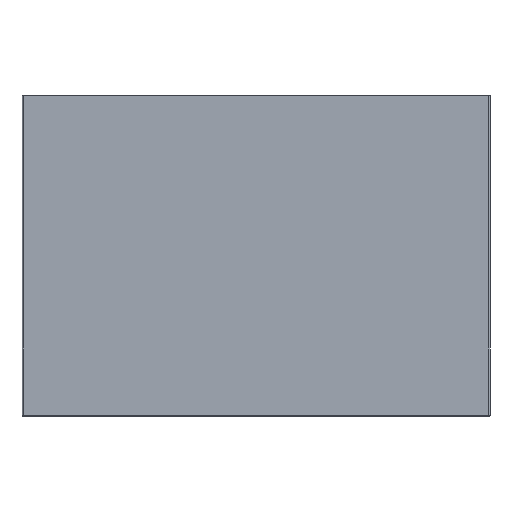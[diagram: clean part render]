
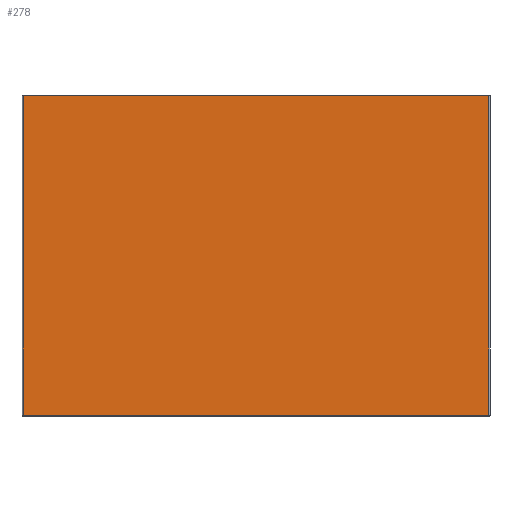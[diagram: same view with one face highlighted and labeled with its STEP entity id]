
A CAD part, front view. The second image highlights one B-rep face of the part: STEP entity #278.
In plain terms, the highlighted planar face has unit normal (0, -1, 0).
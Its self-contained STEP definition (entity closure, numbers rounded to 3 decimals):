
#258=AXIS2_PLACEMENT_3D('Plane Axis2P3D',#255,#256,#257) ;
#41=CARTESIAN_POINT('Vertex',(-698.,-200.,480.)) ;
#46=CARTESIAN_POINT('Line Origine',(-350.,-200.,480.)) ;
#50=CARTESIAN_POINT('Vertex',(-2.,-200.,480.)) ;
#212=CARTESIAN_POINT('Line Origine',(-2.,-200.,240.)) ;
#216=CARTESIAN_POINT('Vertex',(-2.,-200.,2.)) ;
#255=CARTESIAN_POINT('Axis2P3D Location',(0.,-200.,0.)) ;
#260=CARTESIAN_POINT('Line Origine',(-350.,-200.,2.)) ;
#264=CARTESIAN_POINT('Vertex',(-698.,-200.,2.)) ;
#267=CARTESIAN_POINT('Line Origine',(-698.,-200.,241.)) ;
#47=DIRECTION('Vector Direction',(1.,0.,0.)) ;
#213=DIRECTION('Vector Direction',(0.,0.,-1.)) ;
#256=DIRECTION('Axis2P3D Direction',(0.,1.,-0.)) ;
#257=DIRECTION('Axis2P3D XDirection',(-1.,0.,0.)) ;
#261=DIRECTION('Vector Direction',(-1.,0.,0.)) ;
#268=DIRECTION('Vector Direction',(0.,0.,1.)) ;
#48=VECTOR('Line Direction',#47,1.) ;
#214=VECTOR('Line Direction',#213,1.) ;
#262=VECTOR('Line Direction',#261,1.) ;
#269=VECTOR('Line Direction',#268,1.) ;
#273=ORIENTED_EDGE('',*,*,#266,.T.) ;
#274=ORIENTED_EDGE('',*,*,#218,.F.) ;
#275=ORIENTED_EDGE('',*,*,#52,.F.) ;
#276=ORIENTED_EDGE('',*,*,#271,.F.) ;
#278=ADVANCED_FACE('STRUTTURA',(#277),#259,.F.) ;
#52=EDGE_CURVE('',#42,#51,#49,.T.) ;
#218=EDGE_CURVE('',#51,#217,#215,.T.) ;
#266=EDGE_CURVE('',#265,#217,#263,.F.) ;
#271=EDGE_CURVE('',#265,#42,#270,.T.) ;
#272=EDGE_LOOP('',(#273,#274,#275,#276)) ;
#277=FACE_OUTER_BOUND('',#272,.T.) ;
#49=LINE('Line',#46,#48) ;
#215=LINE('Line',#212,#214) ;
#263=LINE('Line',#260,#262) ;
#270=LINE('Line',#267,#269) ;
#259=PLANE('Plane',#258) ;
#42=VERTEX_POINT('',#41) ;
#51=VERTEX_POINT('',#50) ;
#217=VERTEX_POINT('',#216) ;
#265=VERTEX_POINT('',#264) ;
